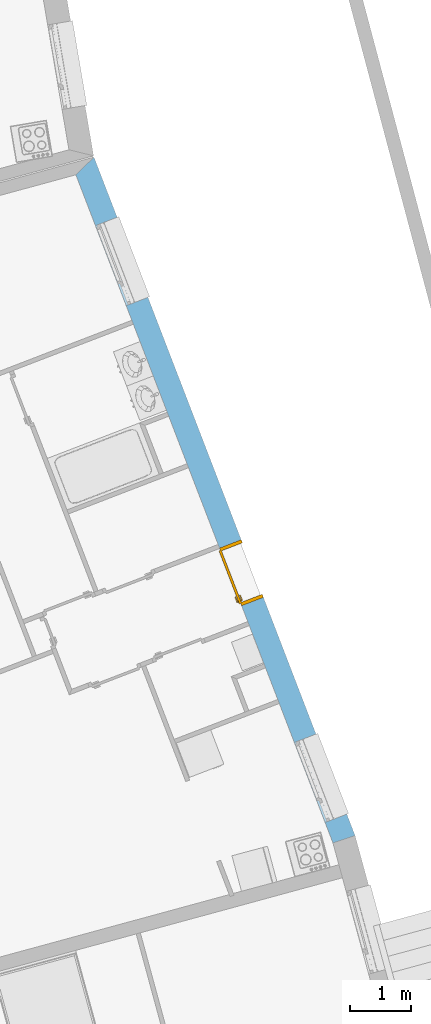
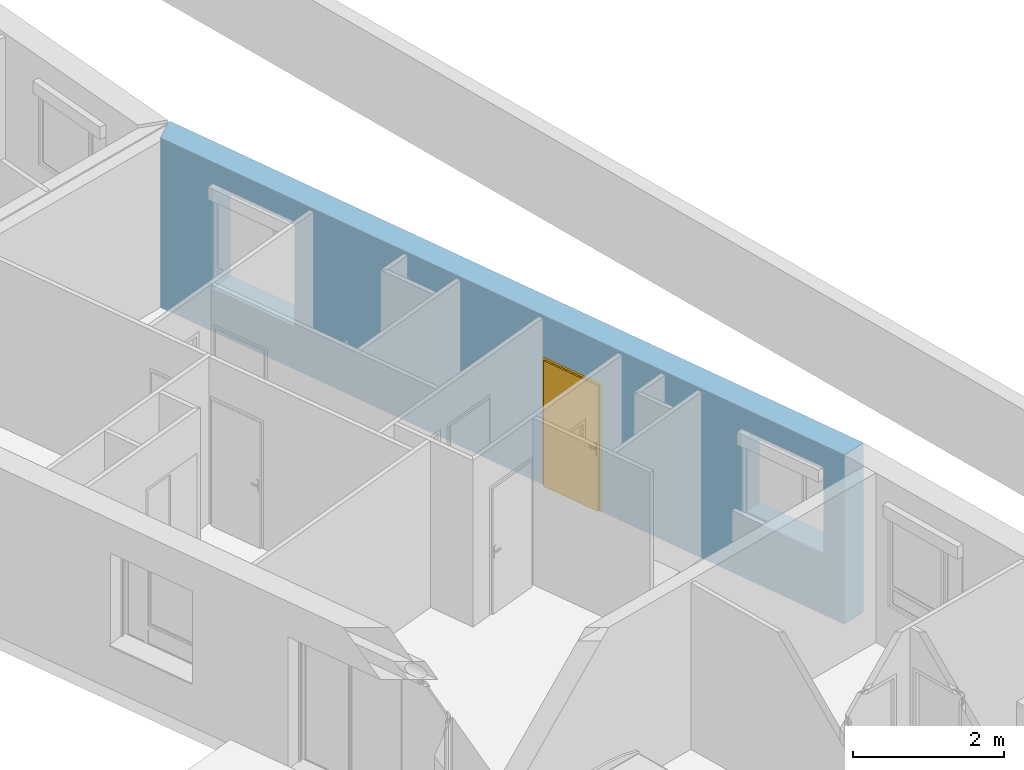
# One storey, part 78 of 195: 1 door, 3 openings, plus 1 element that does not belong to this part.
"""IFC2X3 building model written with IfcOpenShell, lengths in metres."""

from ifc_helpers import new_model, entity, si_unit, converted_unit, derived_unit, money_unit, direction, frame, origin_with_axes, origin_2d_with_axis, place, context, subcontext, project, spatial, polyline, rectangle, outline, extrude, faceted_brep, source, transform, mapped, material, layer, layer_set, layer_usage, type_object, element, fill, save


model = new_model("IFC2X3")

# Units and contexts
model_context = context("Model", 3, precision=1e-05, world=origin_with_axes(), true_north=direction((0.0, 1.0)))
body_context = subcontext(model_context, "Body", "Model", "MODEL_VIEW")
ifc_project = project(units=[si_unit("LENGTHUNIT", "METRE"), si_unit("AREAUNIT", "SQUARE_METRE"), si_unit("VOLUMEUNIT", "CUBIC_METRE"), converted_unit("PLANEANGLEUNIT", "DEGREE", entity("IfcPlaneAngleMeasure", 0.0174532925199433), si_unit("PLANEANGLEUNIT", "RADIAN"), dimensions=[0, 0, 0, 0, 0, 0, 0]), money_unit("CHF"), converted_unit("TIMEUNIT", "Year", entity("IfcTimeMeasure", 31557600.0), si_unit("TIMEUNIT", "SECOND"), dimensions=[0, 0, 1, 0, 0, 0, 0]), si_unit("MASSUNIT", "GRAM", prefix="KILO"), si_unit("THERMODYNAMICTEMPERATUREUNIT", "DEGREE_CELSIUS"), si_unit("LUMINOUSINTENSITYUNIT", "LUMEN"), si_unit("ENERGYUNIT", "JOULE", prefix="MEGA"), derived_unit("THERMALCONDUCTANCEUNIT", [(si_unit("POWERUNIT", "WATT"), 1), (si_unit("LENGTHUNIT", "METRE"), -1), (si_unit("THERMODYNAMICTEMPERATUREUNIT", "KELVIN"), -1)]), derived_unit("SPECIFICHEATCAPACITYUNIT", [(si_unit("ENERGYUNIT", "JOULE"), 1), (si_unit("MASSUNIT", "GRAM", prefix="KILO"), -1), (si_unit("THERMODYNAMICTEMPERATUREUNIT", "KELVIN"), -1)]), derived_unit("MASSDENSITYUNIT", [(si_unit("MASSUNIT", "GRAM", prefix="KILO"), 1), (si_unit("VOLUMEUNIT", "CUBIC_METRE"), -1)])], contexts=[model_context])

# Site, building, storey
site_placement = place(None, origin_with_axes())
site = spatial("IfcSite", under=ifc_project, at=site_placement, Name="Site", CompositionType="ELEMENT")
building_placement = place(site_placement, origin_with_axes())
building = spatial("IfcBuilding", under=site, at=building_placement, Name="Bâtiment", CompositionType="ELEMENT")
storey_placement = place(building_placement, origin_with_axes())
storey = spatial("IfcBuildingStorey", under=building, at=storey_placement, Name="rdc", CompositionType="ELEMENT", Elevation=0.0)

# Wall, openings, door
ifc_material_1 = material(Name="Parpaing 312445824")
ifc_layer_1 = layer(ifc_material_1, 0.22, ventilated="UNKNOWN")
ifc_material_2 = material(Name="Isolant styromousse 301821074")
ifc_layer_2 = layer(ifc_material_2, 0.16, ventilated="UNKNOWN")
ifc_layer_set = layer_set([ifc_layer_1, ifc_layer_2], Name="isol int 22+16 0836643197")
ifc_layer_usage = layer_usage(ifc_layer_set, "AXIS2", "NEGATIVE", 0.0)
wall_type = type_object("IfcWallType", Name="isol int 22+16 0836643197 380", PredefinedType="NOTDEFINED")
wall_placement = place(storey_placement, frame((9589.41527848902, -1033.618668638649, 57.7), z_axis=(0.0, 0.0, 1.0), x_axis=(0.3591526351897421, -0.9332788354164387, 0.0)))
wall = element("IfcWallStandardCase", 1, at=wall_placement, inside=storey, type_object=wall_type, material=ifc_layer_usage, Name="Mur-113", context=body_context, shape_type="SweptSolid", body=[
    extrude(outline(polyline([(0.162329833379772, -0.3800000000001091), (11.8445257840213, -0.3800000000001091), (11.8638283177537, 0.0), (0.0, 0.0), (0.162329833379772, -0.3800000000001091)])), origin_with_axes(), (0.0, 0.0, 1.0), 2.75),
])
opening_1_placement = place(wall_placement, frame((1.751472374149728, 0.0, 0.7000000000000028), z_axis=(0.0, 0.0, 1.0), x_axis=(1.0, 0.0, 0.0)))
element("IfcOpeningElement", 2, at=opening_1_placement, cuts=wall, Name="Fen-045", context=body_context, shape_type="Brep", body=[
    faceted_brep([(-0.7000000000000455, -0.220000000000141, 1.5), (0.6999999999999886, -0.2200000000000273, 1.5), (0.6999999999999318, 3.977631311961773, 1.5), (-0.7000000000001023, 3.977631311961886, 1.5), (-0.7000000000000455, -0.220000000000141, 1.700000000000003), (0.6999999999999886, -0.2200000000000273, 1.700000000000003), (0.6999999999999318, -0.3000000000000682, 1.5), (0.6999999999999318, -0.3000000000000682, 0.0), (0.6999999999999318, 3.977631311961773, 0.0), (-0.7000000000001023, 3.977631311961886, 0.0), (-0.7000000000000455, -0.3000000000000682, 1.5), (-0.7000000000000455, -0.3000000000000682, 0.0), (-0.7000000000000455, -0.4800000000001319, 1.5), (-0.7000000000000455, -0.4800000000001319, 1.700000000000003), (0.6999999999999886, -0.4800000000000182, 1.700000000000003), (0.6999999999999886, -0.4800000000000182, 1.5), (0.6999999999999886, -4.357631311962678, 1.5), (0.6999999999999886, -4.357631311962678, 0.0), (-0.6999999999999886, -4.357631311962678, 0.0), (-0.6999999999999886, -4.357631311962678, 1.5)], [[[0, 1, 2, 3]], [[1, 0, 4, 5]], [[1, 6, 7, 8, 2]], [[2, 8, 9, 3]], [[10, 0, 3, 9, 11]], [[0, 10, 12, 13, 4]], [[14, 5, 4, 13]], [[6, 1, 5, 14, 15]], [[6, 15, 16, 17, 7]], [[7, 11, 9, 8]], [[12, 10, 11, 18, 19]], [[12, 15, 14, 13]], [[15, 12, 19, 16]], [[19, 18, 17, 16]], [[11, 7, 17, 18]]]),
])
opening_2_placement = place(wall_placement, frame((10.78837826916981, 0.0, 1.0), z_axis=(0.0, 0.0, 1.0), x_axis=(1.0, 0.0, 0.0)))
element("IfcOpeningElement", 3, at=opening_2_placement, cuts=wall, Name="Fen-045", context=body_context, shape_type="Brep", body=[
    faceted_brep([(-0.7000000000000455, -0.220000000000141, 1.200000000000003), (0.6999999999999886, -0.2200000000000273, 1.200000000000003), (0.6999999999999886, 3.977631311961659, 1.200000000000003), (-0.6999999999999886, 3.977631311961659, 1.200000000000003), (-0.7000000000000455, -0.220000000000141, 1.399999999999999), (0.6999999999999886, -0.2200000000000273, 1.399999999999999), (0.6999999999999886, -0.3000000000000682, 1.200000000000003), (0.6999999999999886, -0.3000000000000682, 0.0), (0.6999999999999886, 3.977631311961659, 0.0), (-0.6999999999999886, 3.977631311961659, 0.0), (-0.7000000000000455, -0.3000000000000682, 1.200000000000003), (-0.7000000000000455, -0.3000000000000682, 0.0), (-0.7000000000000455, -0.4800000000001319, 1.200000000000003), (-0.7000000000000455, -0.4800000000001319, 1.399999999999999), (0.6999999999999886, -0.4800000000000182, 1.399999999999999), (0.6999999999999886, -0.4800000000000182, 1.200000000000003), (0.7000000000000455, -4.357631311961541, 1.200000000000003), (0.7000000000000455, -4.357631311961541, 0.0), (-0.7000000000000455, -4.357631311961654, 0.0), (-0.7000000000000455, -4.357631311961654, 1.200000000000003)], [[[0, 1, 2, 3]], [[1, 0, 4, 5]], [[1, 6, 7, 8, 2]], [[2, 8, 9, 3]], [[10, 0, 3, 9, 11]], [[0, 10, 12, 13, 4]], [[14, 5, 4, 13]], [[6, 1, 5, 14, 15]], [[6, 15, 16, 17, 7]], [[7, 11, 9, 8]], [[12, 10, 11, 18, 19]], [[12, 15, 14, 13]], [[15, 12, 19, 16]], [[19, 18, 17, 16]], [[11, 7, 17, 18]]]),
])
opening_3_placement = place(wall_placement, frame((7.19412400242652, 0.0, 0.0), z_axis=(0.0, 0.0, 1.0), x_axis=(1.0, 0.0, 0.0)))
opening_3 = element("IfcOpeningElement", 4, at=opening_3_placement, cuts=wall, Name="Por-290", context=body_context, shape_type="SweptSolid", body=[
    extrude(rectangle(XDim=1.01000001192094, YDim=2.079999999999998, at=origin_2d_with_axis()), frame((-5.960487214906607e-09, 0.3799999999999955, 1.039999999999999), z_axis=(0.0, -1.0, 0.0), x_axis=(-1.0, 0.0, 0.0)), (0.0, 0.0, 1.0), 0.76),
])
door_style = type_object("IfcDoorStyle", Name="Porte_1v", ConstructionType="NOTDEFINED", OperationType="NOTDEFINED", ParameterTakesPrecedence=False, Sizeable=False)
shared_shape = source(origin_with_axes(), body_context, "Body", "Brep", [
    faceted_brep([(0.5049999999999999, 0.0, 0.0), (0.465, 0.0, 0.0), (0.4649999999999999, 0.0, 2.04), (-0.4649999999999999, 0.0, 2.04), (-0.465, 0.0, 0.0), (-0.5049999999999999, 0.0, 0.0), (-0.5049999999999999, 0.0, 2.08), (0.5049999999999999, 0.0, 2.08), (0.5049999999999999, -0.38, 0.0), (0.45, -0.3799999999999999, 0.0), (0.45, -0.01500000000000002, 0.0), (0.465, -0.01500000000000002, 0.0), (0.4649999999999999, -0.01500000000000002, 2.04), (-0.4649999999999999, -0.01499999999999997, 2.04), (-0.465, -0.01499999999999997, 0.0), (-0.45, -0.01499999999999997, 0.0), (-0.45, -0.3799999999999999, 0.0), (-0.5049999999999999, -0.3799999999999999, 0.0), (-0.5049999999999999, -0.3799999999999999, 2.08), (0.5049999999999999, -0.38, 2.08), (-0.45, -0.3799999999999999, 2.025), (0.45, -0.3799999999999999, 2.025), (0.45, -0.01500000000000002, 2.025), (-0.45, -0.01499999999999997, 2.025)], [[[0, 1, 2, 3, 4, 5, 6, 7]], [[0, 8, 9, 10, 11, 1]], [[1, 11, 12, 2]], [[2, 12, 13, 3]], [[3, 13, 14, 4]], [[5, 4, 14, 15, 16, 17]], [[18, 6, 5, 17]], [[19, 7, 6, 18]], [[8, 0, 7, 19]], [[9, 8, 19, 18, 17, 16, 20, 21]], [[10, 9, 21, 22]], [[11, 10, 22, 23, 15, 14, 13, 12]], [[23, 20, 16, 15]], [[22, 21, 20, 23]]]),
    faceted_brep([(-0.4, -0.01499999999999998, 0.9), (-0.4399999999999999, -0.01499999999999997, 0.9), (-0.4399999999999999, -0.01499999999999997, 1.1), (-0.4, -0.01499999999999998, 1.1), (-0.4, -0.02499999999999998, 0.9), (-0.4399999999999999, -0.02499999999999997, 0.9), (-0.4399999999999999, -0.02499999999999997, 1.1), (-0.4, -0.02499999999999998, 1.1)], [[[0, 1, 2, 3]], [[1, 0, 4, 5]], [[2, 1, 5, 6]], [[3, 2, 6, 7]], [[0, 3, 7, 4]], [[5, 4, 7, 6]]]),
    faceted_brep([(-0.3299999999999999, -0.02499999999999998, 1.0), (-0.4299999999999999, -0.02499999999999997, 1.0), (-0.4299999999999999, -0.02499999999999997, 1.02), (-0.3299999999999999, -0.02499999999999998, 1.02), (-0.3299999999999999, -0.04499999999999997, 1.0), (-0.4299999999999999, -0.04499999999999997, 1.0), (-0.4299999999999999, -0.04499999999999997, 1.02), (-0.3299999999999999, -0.04499999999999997, 1.02)], [[[0, 1, 2, 3]], [[1, 0, 4, 5]], [[2, 1, 5, 6]], [[3, 2, 6, 7]], [[0, 3, 7, 4]], [[5, 4, 7, 6]]]),
    faceted_brep([(-0.4, 0.03500000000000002, 0.9), (-0.4399999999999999, 0.03500000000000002, 0.9), (-0.4399999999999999, 0.03500000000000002, 1.1), (-0.4, 0.03500000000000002, 1.1), (-0.4, 0.02500000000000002, 0.9), (-0.4399999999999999, 0.02500000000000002, 0.9), (-0.4399999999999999, 0.02500000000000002, 1.1), (-0.4, 0.02500000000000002, 1.1)], [[[0, 1, 2, 3]], [[1, 0, 4, 5]], [[2, 1, 5, 6]], [[3, 2, 6, 7]], [[0, 3, 7, 4]], [[5, 4, 7, 6]]]),
    faceted_brep([(-0.3299999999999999, 0.05500000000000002, 1.0), (-0.4299999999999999, 0.05500000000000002, 1.0), (-0.4299999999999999, 0.05500000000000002, 1.02), (-0.3299999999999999, 0.05500000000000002, 1.02), (-0.3299999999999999, 0.03500000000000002, 1.0), (-0.4299999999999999, 0.03500000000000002, 1.0), (-0.4299999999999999, 0.03500000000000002, 1.02), (-0.3299999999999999, 0.03500000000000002, 1.02)], [[[0, 1, 2, 3]], [[1, 0, 4, 5]], [[2, 1, 5, 6]], [[3, 2, 6, 7]], [[0, 3, 7, 4]], [[5, 4, 7, 6]]]),
    faceted_brep([(-0.465, 0.02500000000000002, 0.0), (0.465, 0.02499999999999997, 0.0), (0.465, -0.01500000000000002, 0.0), (-0.465, -0.01499999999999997, 0.0), (-0.465, 0.02500000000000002, 2.04), (0.465, 0.02499999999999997, 2.04), (0.465, -0.01500000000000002, 2.04), (-0.465, -0.01499999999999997, 2.04)], [[[0, 1, 2, 3]], [[0, 4, 5, 1]], [[1, 5, 6, 2]], [[3, 2, 6, 7]], [[4, 0, 3, 7]], [[5, 4, 7, 6]]]),
])
door_placement = place(opening_3_placement, frame((0.465000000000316, 0.0, 0.0), z_axis=(0.0, 0.0, 1.0), x_axis=(-1.0, 0.0, 0.0)))
door = element("IfcDoor", 5, at=door_placement, inside=storey, type_object=door_style, Name="Por-290", OverallHeight=2.04, OverallWidth=0.93, context=body_context, shape_type="MappedRepresentation", body=[
    mapped(shared_shape, transform((0.4650000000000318, 0.3800000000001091, 0.0))),
])
fill(opening_3, door)

save(model, "model.ifc")
